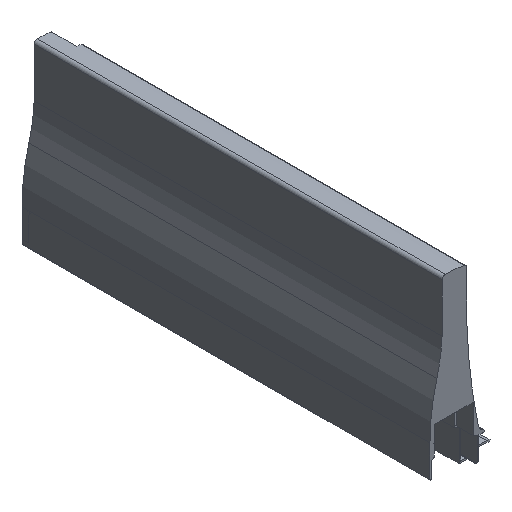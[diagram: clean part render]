
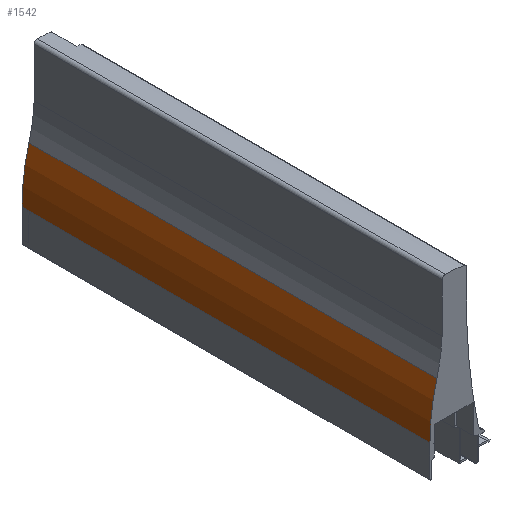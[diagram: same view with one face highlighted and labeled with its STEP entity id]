
A CAD part, isometric view. The second image highlights one B-rep face of the part: STEP entity #1542.
In plain terms, the highlighted cylindrical face has radius 130.3 mm (diameter 260.6 mm), a partial arc.
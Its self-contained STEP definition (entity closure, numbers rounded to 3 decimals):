
#89 = CARTESIAN_POINT ( 'NONE',  ( -4.1, 265., -7.695 ) ) ;
#90 = CARTESIAN_POINT ( 'NONE',  ( 0.401, 265., 26.255 ) ) ;
#96 = CARTESIAN_POINT ( 'NONE',  ( -4.1, 0., -7.695 ) ) ;
#97 = CARTESIAN_POINT ( 'NONE',  ( 0.401, 0., 26.255 ) ) ;
#236 = DIRECTION ( 'NONE',  ( -1., 0., 0. ) ) ;
#237 = DIRECTION ( 'NONE',  ( 0., -1., 0. ) ) ;
#238 = CARTESIAN_POINT ( 'NONE',  ( 126.2, 265., -7.695 ) ) ;
#645 = CARTESIAN_POINT ( 'NONE',  ( -4.1, 265., -7.695 ) ) ;
#646 = DIRECTION ( 'NONE',  ( 0., -1., 0. ) ) ;
#727 = CARTESIAN_POINT ( 'NONE',  ( 126.2, 0., -7.695 ) ) ;
#733 = DIRECTION ( 'NONE',  ( 0., -1., 0. ) ) ;
#734 = DIRECTION ( 'NONE',  ( 1., 0., 0. ) ) ;
#1107 = CARTESIAN_POINT ( 'NONE',  ( 126.2, 265., -7.695 ) ) ;
#1122 = DIRECTION ( 'NONE',  ( 0., -1., 0. ) ) ;
#1123 = DIRECTION ( 'NONE',  ( 1., 0., 0. ) ) ;
#1126 = CARTESIAN_POINT ( 'NONE',  ( 0.401, 265., 26.255 ) ) ;
#1127 = DIRECTION ( 'NONE',  ( 0., -1., 0. ) ) ;
#1458 = VERTEX_POINT ( 'NONE', #89 ) ;
#1459 = VERTEX_POINT ( 'NONE', #90 ) ;
#1465 = VERTEX_POINT ( 'NONE', #96 ) ;
#1466 = VERTEX_POINT ( 'NONE', #97 ) ;
#1542 = ADVANCED_FACE ( 'NONE', ( #2718 ), #2714, .T. ) ;
#1737 = AXIS2_PLACEMENT_3D ( 'NONE', #727, #733, #734 ) ;
#1744 = EDGE_CURVE ( 'NONE', #1458, #1465, #2907, .T. ) ;
#1825 = EDGE_CURVE ( 'NONE', #1466, #1465, #2986, .T. ) ;
#1861 = AXIS2_PLACEMENT_3D ( 'NONE', #1107, #1122, #1123 ) ;
#1929 = AXIS2_PLACEMENT_3D ( 'NONE', #238, #237, #236 ) ;
#2262 = EDGE_LOOP ( 'NONE', ( #2420, #2421, #2422, #2423 ) ) ;
#2420 = ORIENTED_EDGE ( 'NONE', *, *, #1825, .F. ) ;
#2421 = ORIENTED_EDGE ( 'NONE', *, *, #3238, .F. ) ;
#2422 = ORIENTED_EDGE ( 'NONE', *, *, #3236, .T. ) ;
#2423 = ORIENTED_EDGE ( 'NONE', *, *, #1744, .T. ) ;
#2714 = CYLINDRICAL_SURFACE ( 'NONE', #1929, 130.3 ) ;
#2718 = FACE_OUTER_BOUND ( 'NONE', #2262, .T. ) ;
#2907 = LINE ( 'NONE', #645, #2908 ) ;
#2908 = VECTOR ( 'NONE', #646, 1000. ) ;
#2986 = CIRCLE ( 'NONE', #1737, 130.3 ) ;
#3236 = EDGE_CURVE ( 'NONE', #1459, #1458, #3407, .T. ) ;
#3238 = EDGE_CURVE ( 'NONE', #1459, #1466, #3406, .T. ) ;
#3405 = VECTOR ( 'NONE', #1127, 1000. ) ;
#3406 = LINE ( 'NONE', #1126, #3405 ) ;
#3407 = CIRCLE ( 'NONE', #1861, 130.3 ) ;
